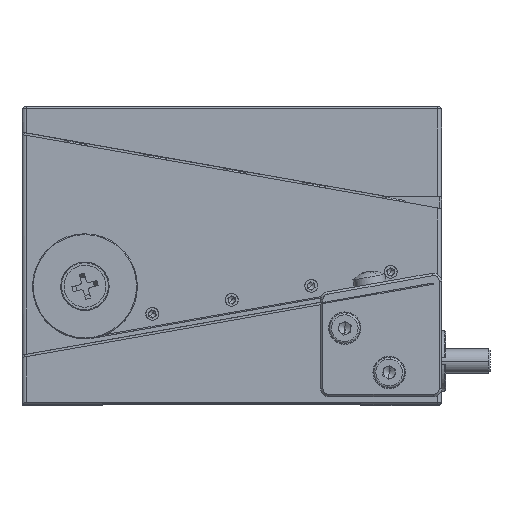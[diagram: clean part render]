
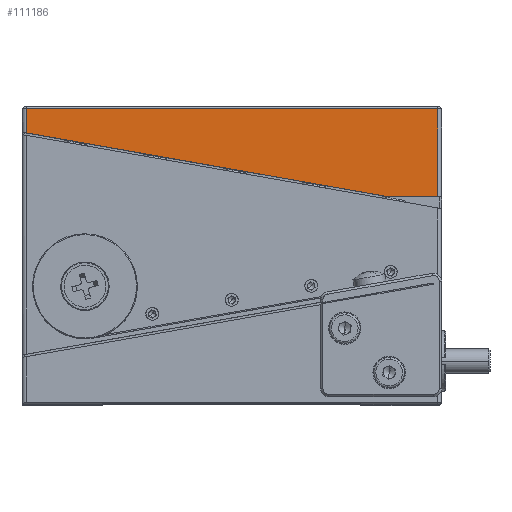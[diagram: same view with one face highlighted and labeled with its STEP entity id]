
A CAD part, top view. The second image highlights one B-rep face of the part: STEP entity #111186.
In plain terms, the highlighted planar face has unit normal (0, 0, 1).
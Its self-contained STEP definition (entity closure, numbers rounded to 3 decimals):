
#3956 = DIRECTION ( 'NONE',  ( 0., -1., 0. ) ) ;
#11682 = CARTESIAN_POINT ( 'NONE',  ( -26., 33.802, 26. ) ) ;
#17074 = CARTESIAN_POINT ( 'NONE',  ( 25.5, 36.997, 26. ) ) ;
#20685 = FACE_OUTER_BOUND ( 'NONE', #100123, .T. ) ;
#25210 = EDGE_CURVE ( 'NONE', #162624, #96086, #27435, .T. ) ;
#27435 = LINE ( 'NONE', #11682, #94784 ) ;
#27733 = EDGE_CURVE ( 'NONE', #46209, #96086, #102914, .T. ) ;
#34383 = ORIENTED_EDGE ( 'NONE', *, *, #25210, .F. ) ;
#35225 = LINE ( 'NONE', #17074, #138299 ) ;
#36265 = VERTEX_POINT ( 'NONE', #103511 ) ;
#43833 = CARTESIAN_POINT ( 'NONE',  ( -26., 36.697, 26. ) ) ;
#45027 = CARTESIAN_POINT ( 'NONE',  ( 20.4, 25.797, 26. ) ) ;
#46209 = VERTEX_POINT ( 'NONE', #99802 ) ;
#46230 = ORIENTED_EDGE ( 'NONE', *, *, #162068, .T. ) ;
#53605 = VERTEX_POINT ( 'NONE', #157099 ) ;
#57140 = PLANE ( 'NONE',  #139061 ) ;
#57706 = CARTESIAN_POINT ( 'NONE',  ( -26., 36.997, 26. ) ) ;
#62366 = ORIENTED_EDGE ( 'NONE', *, *, #27733, .T. ) ;
#67069 = VECTOR ( 'NONE', #3956, 1000. ) ;
#67544 = EDGE_CURVE ( 'NONE', #53605, #36265, #35225, .T. ) ;
#68831 = VECTOR ( 'NONE', #84421, 1000. ) ;
#71227 = DIRECTION ( 'NONE',  ( -1., 0., 0. ) ) ;
#73216 = CARTESIAN_POINT ( 'NONE',  ( 19.397, 25.797, 26. ) ) ;
#74343 = EDGE_CURVE ( 'NONE', #162624, #53605, #80700, .T. ) ;
#80700 = LINE ( 'NONE', #45027, #152232 ) ;
#84325 = CARTESIAN_POINT ( 'NONE',  ( -25.5, 36.997, 26. ) ) ;
#84421 = DIRECTION ( 'NONE',  ( -1., 0., 0. ) ) ;
#84442 = DIRECTION ( 'NONE',  ( 1., 0., 0. ) ) ;
#90258 = CARTESIAN_POINT ( 'NONE',  ( -25.5, 33.713, 26. ) ) ;
#93379 = ORIENTED_EDGE ( 'NONE', *, *, #74343, .T. ) ;
#94784 = VECTOR ( 'NONE', #105759, 1000. ) ;
#96086 = VERTEX_POINT ( 'NONE', #90258 ) ;
#99802 = CARTESIAN_POINT ( 'NONE',  ( -25.5, 36.697, 26. ) ) ;
#100123 = EDGE_LOOP ( 'NONE', ( #148821, #46230, #62366, #34383, #93379 ) ) ;
#102914 = LINE ( 'NONE', #84325, #67069 ) ;
#103511 = CARTESIAN_POINT ( 'NONE',  ( 25.5, 36.697, 26. ) ) ;
#104676 = LINE ( 'NONE', #43833, #68831 ) ;
#105759 = DIRECTION ( 'NONE',  ( -0.985, 0.174, 0. ) ) ;
#111110 = DIRECTION ( 'NONE',  ( 0., 1., 0. ) ) ;
#111186 = ADVANCED_FACE ( 'NONE', ( #20685 ), #57140, .F. ) ;
#138299 = VECTOR ( 'NONE', #111110, 1000. ) ;
#139061 = AXIS2_PLACEMENT_3D ( 'NONE', #57706, #151728, #71227 ) ;
#148821 = ORIENTED_EDGE ( 'NONE', *, *, #67544, .T. ) ;
#151728 = DIRECTION ( 'NONE',  ( 0., 0., -1. ) ) ;
#152232 = VECTOR ( 'NONE', #84442, 1000. ) ;
#157099 = CARTESIAN_POINT ( 'NONE',  ( 25.5, 25.797, 26. ) ) ;
#162068 = EDGE_CURVE ( 'NONE', #36265, #46209, #104676, .T. ) ;
#162624 = VERTEX_POINT ( 'NONE', #73216 ) ;
